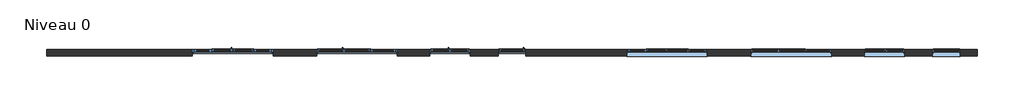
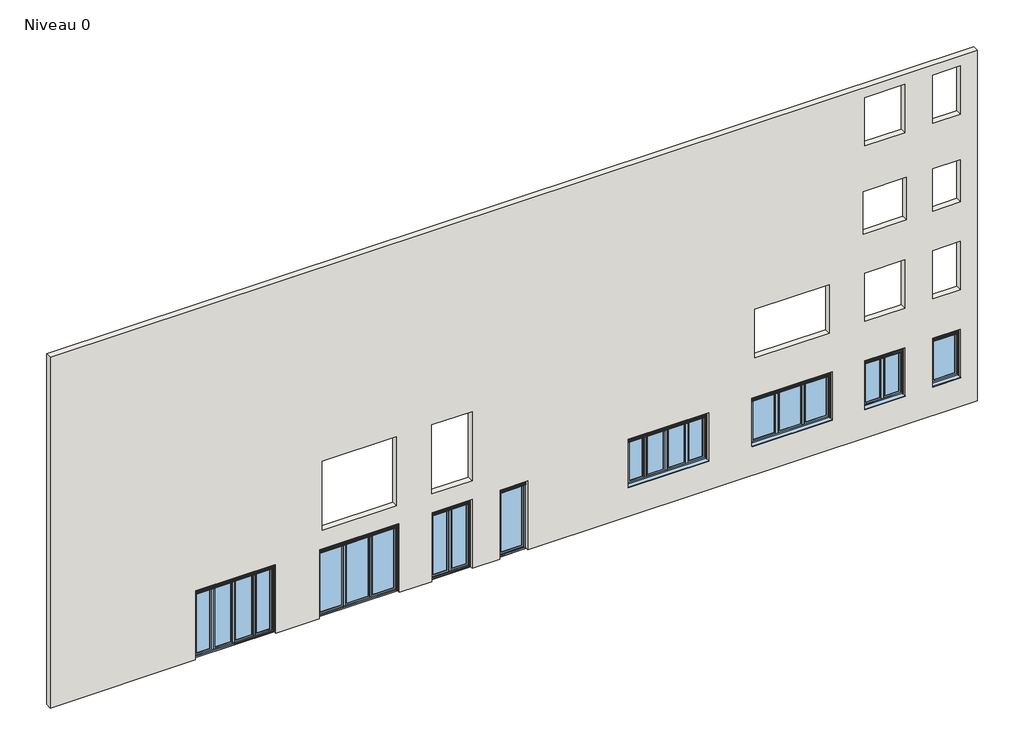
# One storey: 8 windows, 1 wall.
"""IFC4 building model written with IfcOpenShell, lengths in millimetres."""

from ifc_helpers import new_model, si_unit, frame, origin, place, context, project, spatial, polyline, outline, extrude, transform, mapped, element, save
from components import window_a7aff2f7, window_6b0d1190, window_2f7a2a9f, window_d9ff698f, window_1_of1_enr_pvc_alu_93b9386a, window_2_of2_enr_pvc_alu_a784acc1, window_21_pf1_enr_pvc_alu_f3458d36, window_22_pf2_enr_pvc_alu_eefa80e3

model = new_model("IFC4")

# Units and contexts
model_context = context("Model", 3, world=origin())
ifc_project = project(units=[si_unit("LENGTHUNIT", "METRE", prefix="MILLI")], contexts=[model_context])

# Site, building, storey
site = spatial("IfcSite", under=ifc_project)
building = spatial("IfcBuilding", under=site)
storey = spatial("IfcBuildingStorey", under=building, Name="Niveau 0", Elevation=0.0)

# Wall
placement = place(None, origin())
element("IfcWall", 1, ObjectType="Générique - Ext. 200 mm", at=placement, inside=storey, context=model_context, shape_type="SweptSolid", body=[
    extrude(outline(polyline([(0.0, -1846.5524646), (12000.0, -1846.5524646), (12000.0, -31846.5524646), (0.0, -31846.5524646), (0.0, -27146.5524646), (2360.0, -27146.5524646), (2360.0, -24546.5524646), (0.0, -24546.5524646), (0.0, -23146.5524646), (2360.0, -23146.5524646), (2360.0, -20546.5524646), (0.0, -20546.5524646), (0.0, -19496.5524646), (2360.0, -19496.5524646), (2360.0, -18196.5524646), (0.0, -18196.5524646), (0.0, -17296.5524646), (2360.0, -17296.5524646), (2360.0, -16396.5524646), (0.0, -16396.5524646), (0.0, -1846.5524646)]), holes=[polyline([(1000.0, -2396.5524646), (1000.0, -3296.5524646), (2650.0, -3296.5524646), (2650.0, -2396.5524646), (1000.0, -2396.5524646)]), polyline([(1000.0, -4196.5524646), (1000.0, -5496.5524646), (2650.0, -5496.5524646), (2650.0, -4196.5524646), (1000.0, -4196.5524646)]), polyline([(4000.0, -2396.5524646), (4000.0, -3296.5524646), (5650.0, -3296.5524646), (5650.0, -2396.5524646), (4000.0, -2396.5524646)]), polyline([(1000.0, -6546.5524646), (1000.0, -9146.5524646), (2650.0, -9146.5524646), (2650.0, -6546.5524646), (1000.0, -6546.5524646)]), polyline([(4000.0, -4196.5524646), (4000.0, -5496.5524646), (5650.0, -5496.5524646), (5650.0, -4196.5524646), (4000.0, -4196.5524646)]), polyline([(7000.0, -2396.5524646), (7000.0, -3296.5524646), (8450.0, -3296.5524646), (8450.0, -2396.5524646), (7000.0, -2396.5524646)]), polyline([(7000.0, -4146.5524646), (7000.0, -5546.5524646), (8450.0, -5546.5524646), (8450.0, -4146.5524646), (7000.0, -4146.5524646)]), polyline([(4000.0, -6646.5524646), (4000.0, -9046.5524646), (5650.0, -9046.5524646), (5650.0, -6646.5524646), (4000.0, -6646.5524646)]), polyline([(1000.0, -10546.5524646), (1000.0, -13146.5524646), (2650.0, -13146.5524646), (2650.0, -10546.5524646), (1000.0, -10546.5524646)]), polyline([(3000.0, -18196.5524646), (3000.0, -19496.5524646), (5360.0, -19496.5524646), (5360.0, -18196.5524646), (3000.0, -18196.5524646)]), polyline([(3000.0, -20646.5524646), (3000.0, -23046.5524646), (5360.0, -23046.5524646), (5360.0, -20646.5524646), (3000.0, -20646.5524646)]), polyline([(10000.0, -2396.5524646), (10000.0, -3296.5524646), (11650.0, -3296.5524646), (11650.0, -2396.5524646), (10000.0, -2396.5524646)]), polyline([(10000.0, -4196.5524646), (10000.0, -5496.5524646), (11650.0, -5496.5524646), (11650.0, -4196.5524646), (10000.0, -4196.5524646)])]), frame((0.0, 9.3321867, 0.0), z_axis=(0.0, 1.0, 0.0), x_axis=(0.0, 0.0, 1.0)), (0.0, 0.0, 1.0), 200.0),
])

# Windows
window_shape = window_a7aff2f7(model_context)
element("IfcWindow", 2, ObjectType="4. OF2 + Fixe à G ENR PVC-ALU : OF3 260X165 (LXH) cm + PB", at=placement, inside=storey, context=model_context, shape_type="MappedRepresentation", body=[
    mapped(window_shape, transform((-7846.5524646, 109.3321867, 200.0), x_axis=(-1.0, 0.0, 0.0), y_axis=(0.0, -1.0, 0.0), z_axis=(0.0, 0.0, 1.0))),
])
window_2_shape = window_6b0d1190(model_context)
element("IfcWindow", 3, ObjectType="9. OF2 + Fixe à G et à D ENR PVC-ALU : OF3 260X165 (LXH) cm + PB", at=placement, inside=storey, context=model_context, shape_type="MappedRepresentation", body=[
    mapped(window_2_shape, transform((-11846.5524646, 109.3321867, 200.0), x_axis=(-1.0, 0.0, 0.0), y_axis=(0.0, -1.0, 0.0), z_axis=(0.0, 0.0, 1.0))),
])
window_3_shape = window_2f7a2a9f(model_context)
element("IfcWindow", 4, ObjectType="24. PF2 + Fixe à G ENR PVC-ALU : PF3 260X236 (LXH) cm + PB", at=placement, inside=storey, context=model_context, shape_type="MappedRepresentation", body=[
    mapped(window_3_shape, transform((-21846.5524646, 109.3321867, 0.0), x_axis=(-1.0, 0.0, 0.0), y_axis=(0.0, -1.0, 0.0), z_axis=(0.0, 0.0, 1.0))),
])
window_4_shape = window_d9ff698f(model_context)
element("IfcWindow", 5, ObjectType="26. PF2 + Fixe à G et à D ENR PVC-ALU : PF3 260X236 (LXH) cm + PB", at=placement, inside=storey, context=model_context, shape_type="MappedRepresentation", body=[
    mapped(window_4_shape, transform((-25846.5524646, 109.3321867, 0.0), x_axis=(-1.0, 0.0, 0.0), y_axis=(0.0, -1.0, 0.0), z_axis=(0.0, 0.0, 1.0))),
])
window_1_of1_enr_pvc_alu_shape = window_1_of1_enr_pvc_alu_93b9386a(model_context)
element("IfcWindow", 6, ObjectType="1. OF1 ENR PVC-ALU : OF2 130X165 (LXH) cm", at=placement, inside=storey, context=model_context, shape_type="MappedRepresentation", body=[
    mapped(window_1_of1_enr_pvc_alu_shape, transform((-2846.5524646, 109.3321867, 200.0), x_axis=(-1.0, 0.0, 0.0), y_axis=(0.0, -1.0, 0.0), z_axis=(0.0, 0.0, 1.0))),
])
window_2_of2_enr_pvc_alu_shape = window_2_of2_enr_pvc_alu_a784acc1(model_context)
element("IfcWindow", 7, ObjectType="2. OF2 ENR PVC-ALU : OF2 130X165 (LXH) cm", at=placement, inside=storey, context=model_context, shape_type="MappedRepresentation", body=[
    mapped(window_2_of2_enr_pvc_alu_shape, transform((-4846.5524646, 109.3321867, 200.0), x_axis=(-1.0, 0.0, 0.0), y_axis=(0.0, -1.0, 0.0), z_axis=(0.0, 0.0, 1.0))),
])
window_21_pf1_enr_pvc_alu_shape = window_21_pf1_enr_pvc_alu_f3458d36(model_context)
element("IfcWindow", 8, ObjectType="21. PF1 ENR PVC-ALU : PF2 130X236 (LXH) cm", at=placement, inside=storey, context=model_context, shape_type="MappedRepresentation", body=[
    mapped(window_21_pf1_enr_pvc_alu_shape, transform((-16846.5524646, 109.3321867, 0.0), x_axis=(-1.0, 0.0, 0.0), y_axis=(0.0, -1.0, 0.0), z_axis=(0.0, 0.0, 1.0))),
])
window_22_pf2_enr_pvc_alu_shape = window_22_pf2_enr_pvc_alu_eefa80e3(model_context)
element("IfcWindow", 9, ObjectType="22. PF2 ENR PVC-ALU : PF2 130X236 (LXH) cm", at=placement, inside=storey, context=model_context, shape_type="MappedRepresentation", body=[
    mapped(window_22_pf2_enr_pvc_alu_shape, transform((-18846.5524646, 109.3321867, 0.0), x_axis=(-1.0, 0.0, 0.0), y_axis=(0.0, -1.0, 0.0), z_axis=(0.0, 0.0, 1.0))),
])

save(model, "model.ifc")
